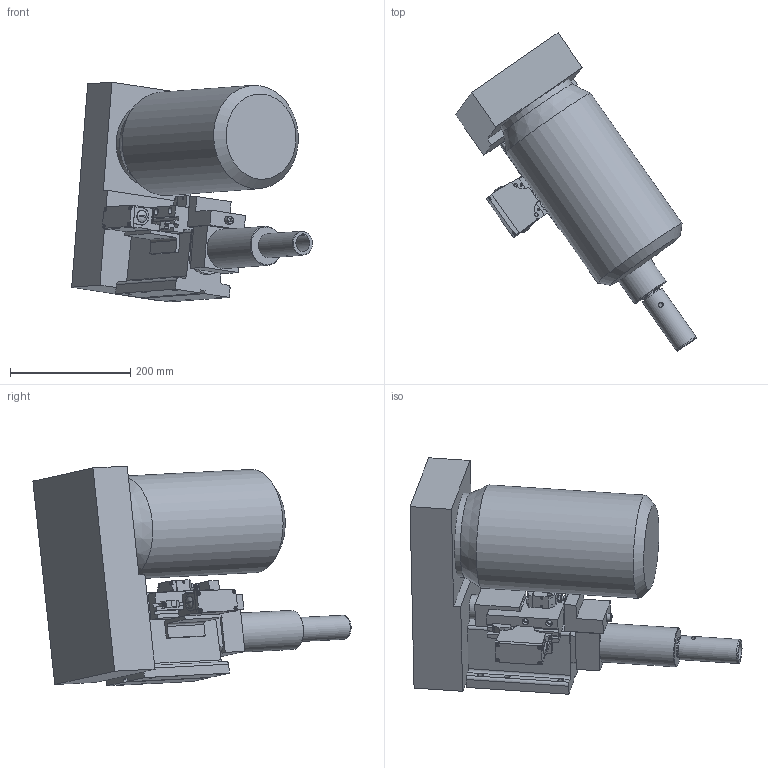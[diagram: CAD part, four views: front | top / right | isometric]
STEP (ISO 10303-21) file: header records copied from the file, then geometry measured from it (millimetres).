
FILE_DESCRIPTION((''),'2;1');
FILE_NAME('C:\VaultWork\Zeichnungen\Maßblätter\Gewindemaschinen\G6-50\G01416-2-0 Maßblatt G6-50 mit U-Laterne und Stellhülsenaufnahme Gr. 28.stp','2009-06-26T10:31:06',('Test'),(''),'Autodesk Inventor 2008','Autodesk Inventor 2008','');
FILE_SCHEMA(('AUTOMOTIVE_DESIGN { 1 0 10303 214 1 1 1 1 }'));
Length unit declared in the file: millimetre
Products named in the file (1): G01416-2-0 Maßblatt G6-50 mit U-Laterne und Stellhülsenaufnahme Gr. 28
Bounding box: 400.26 x 528.98 x 365.34 mm (x, y, z)
Volume: 13349572.2 mm3; surface area: 633985.7 mm2
Topology: 3 solids, 3 shells, 514 faces, 1346 edges, 876 vertices
Faces by surface type: plane 347, cylinder 92, cone 37, torus 18, bspline 16, sphere 4
Full cylindrical faces by diameter (mm): 3.8 x2, 4 x2, 4.3 x2, 4.917 x2, 5.9 x2, 5.97 x1, 6 x3, 6.6 x2, 6.647 x1, 7.323 x1, 8 x6, 9.98 x2, 10 x2, 11.4 x1, 13 x1, 16 x1, 20 x2, 28 x1, 28.5 x1, 29 x1, 32 x1, 35 x1, 40 x2, 65 x1, 140 x1, 172 x1
Entity records: 16459 total; most frequent: CARTESIAN_POINT 3787, ORIENTED_EDGE 2450, DIRECTION 2448, EDGE_CURVE 1225, VERTEX_POINT 837, AXIS2_PLACEMENT_3D 817, VECTOR 814, LINE 814
